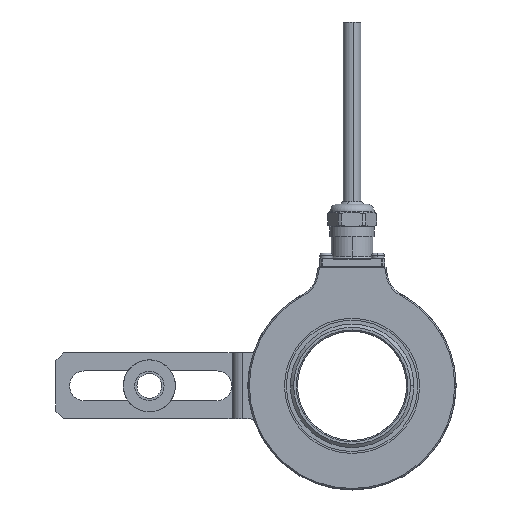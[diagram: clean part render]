
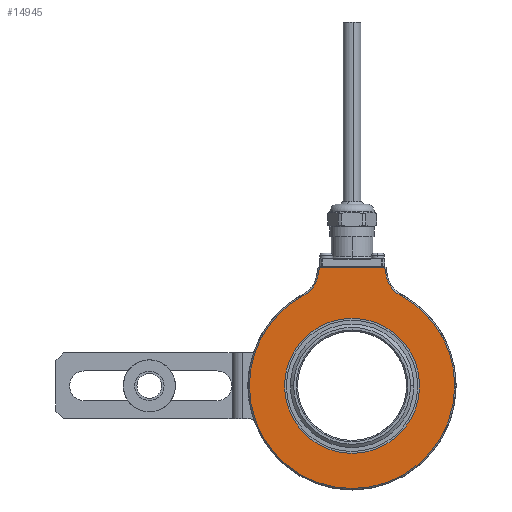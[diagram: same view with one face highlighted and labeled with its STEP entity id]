
A CAD part, left-side view. The second image highlights one B-rep face of the part: STEP entity #14945.
In plain terms, the highlighted planar face has unit normal (-1, 0, 0).
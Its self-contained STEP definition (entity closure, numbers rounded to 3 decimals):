
#236 = CARTESIAN_POINT ( 'NONE',  ( -26., 0., 0. ) ) ;
#365 = DIRECTION ( 'NONE',  ( -1., 0., 0. ) ) ;
#521 = VERTEX_POINT ( 'NONE', #24210 ) ;
#879 = DIRECTION ( 'NONE',  ( 1., 0., 0. ) ) ;
#998 = CIRCLE ( 'NONE', #8838, 39.5 ) ;
#1446 = AXIS2_PLACEMENT_3D ( 'NONE', #4204, #13880, #16110 ) ;
#1842 = EDGE_CURVE ( 'NONE', #15640, #25314, #23905, .T. ) ;
#2794 = ORIENTED_EDGE ( 'NONE', *, *, #4108, .T. ) ;
#2983 = CARTESIAN_POINT ( 'NONE',  ( -26., -18.551, 34.873 ) ) ;
#3736 = DIRECTION ( 'NONE',  ( 1., 0., 0. ) ) ;
#4019 = ORIENTED_EDGE ( 'NONE', *, *, #11534, .T. ) ;
#4049 = CARTESIAN_POINT ( 'NONE',  ( -26., -39.5, 0. ) ) ;
#4108 = EDGE_CURVE ( 'NONE', #16042, #17447, #5996, .T. ) ;
#4204 = CARTESIAN_POINT ( 'NONE',  ( -26., 23.482, 44.143 ) ) ;
#4354 = AXIS2_PLACEMENT_3D ( 'NONE', #18796, #21004, #4936 ) ;
#4511 = VERTEX_POINT ( 'NONE', #2983 ) ;
#4760 = CIRCLE ( 'NONE', #4354, 26. ) ;
#4936 = DIRECTION ( 'NONE',  ( 0., 1., 0. ) ) ;
#5493 = AXIS2_PLACEMENT_3D ( 'NONE', #236, #365, #6170 ) ;
#5552 = VERTEX_POINT ( 'NONE', #18730 ) ;
#5818 = CIRCLE ( 'NONE', #9113, 26. ) ;
#5826 = ORIENTED_EDGE ( 'NONE', *, *, #25370, .T. ) ;
#5996 = CIRCLE ( 'NONE', #1446, 10.5 ) ;
#6052 = CARTESIAN_POINT ( 'NONE',  ( -26., 40., 0. ) ) ;
#6170 = DIRECTION ( 'NONE',  ( 0., -1., 0. ) ) ;
#6368 = EDGE_CURVE ( 'NONE', #521, #16042, #10616, .T. ) ;
#6606 = DIRECTION ( 'NONE',  ( 0., -1., 0. ) ) ;
#6706 = CARTESIAN_POINT ( 'NONE',  ( -26., 0., 0. ) ) ;
#6767 = CIRCLE ( 'NONE', #5493, 39.5 ) ;
#7020 = VERTEX_POINT ( 'NONE', #24166 ) ;
#7981 = EDGE_LOOP ( 'NONE', ( #4019, #21900 ) ) ;
#8117 = AXIS2_PLACEMENT_3D ( 'NONE', #10471, #22551, #6606 ) ;
#8120 = DIRECTION ( 'NONE',  ( 0., -1., 0. ) ) ;
#8676 = DIRECTION ( 'NONE',  ( 0., 0.174, -0.985 ) ) ;
#8759 = DIRECTION ( 'NONE',  ( 0., -1., 0. ) ) ;
#8838 = AXIS2_PLACEMENT_3D ( 'NONE', #16672, #22395, #8759 ) ;
#8935 = AXIS2_PLACEMENT_3D ( 'NONE', #17339, #3736, #25264 ) ;
#9113 = AXIS2_PLACEMENT_3D ( 'NONE', #6706, #879, #9125 ) ;
#9125 = DIRECTION ( 'NONE',  ( 0., 1., 0. ) ) ;
#9803 = FACE_OUTER_BOUND ( 'NONE', #14610, .T. ) ;
#10113 = ORIENTED_EDGE ( 'NONE', *, *, #12196, .T. ) ;
#10471 = CARTESIAN_POINT ( 'NONE',  ( -26., 0., 0. ) ) ;
#10616 = LINE ( 'NONE', #10738, #21338 ) ;
#10644 = DIRECTION ( 'NONE',  ( 0., 0.174, 0.985 ) ) ;
#10738 = CARTESIAN_POINT ( 'NONE',  ( -26., 21.188, -3.317 ) ) ;
#11264 = VERTEX_POINT ( 'NONE', #11355 ) ;
#11355 = CARTESIAN_POINT ( 'NONE',  ( -26., -26., 0. ) ) ;
#11534 = EDGE_CURVE ( 'NONE', #5552, #11264, #4760, .T. ) ;
#11910 = ORIENTED_EDGE ( 'NONE', *, *, #14717, .T. ) ;
#12196 = EDGE_CURVE ( 'NONE', #7020, #14230, #6767, .T. ) ;
#12573 = CARTESIAN_POINT ( 'NONE',  ( -26., -18.776, 10.364 ) ) ;
#13880 = DIRECTION ( 'NONE',  ( 1., 0., 0. ) ) ;
#14183 = CARTESIAN_POINT ( 'NONE',  ( -26., -12.58, 45.5 ) ) ;
#14230 = VERTEX_POINT ( 'NONE', #4049 ) ;
#14610 = EDGE_LOOP ( 'NONE', ( #18777, #15897, #22746, #2794, #11910, #10113, #5826, #24704 ) ) ;
#14717 = EDGE_CURVE ( 'NONE', #17447, #7020, #15145, .T. ) ;
#14844 = EDGE_CURVE ( 'NONE', #4511, #15640, #18067, .T. ) ;
#14945 = ADVANCED_FACE ( 'NONE', ( #9803, #19912 ), #17725, .T. ) ;
#15145 = CIRCLE ( 'NONE', #8117, 39.5 ) ;
#15258 = CARTESIAN_POINT ( 'NONE',  ( -26., 40., 45.5 ) ) ;
#15640 = VERTEX_POINT ( 'NONE', #17080 ) ;
#15897 = ORIENTED_EDGE ( 'NONE', *, *, #17176, .T. ) ;
#16042 = VERTEX_POINT ( 'NONE', #21697 ) ;
#16110 = DIRECTION ( 'NONE',  ( 0., -1., 0. ) ) ;
#16672 = CARTESIAN_POINT ( 'NONE',  ( -26., 0., 0. ) ) ;
#16835 = LINE ( 'NONE', #15258, #18914 ) ;
#17080 = CARTESIAN_POINT ( 'NONE',  ( -26., -13.141, 42.32 ) ) ;
#17176 = EDGE_CURVE ( 'NONE', #25314, #521, #16835, .T. ) ;
#17339 = CARTESIAN_POINT ( 'NONE',  ( -26., -23.482, 44.143 ) ) ;
#17447 = VERTEX_POINT ( 'NONE', #21175 ) ;
#17725 = PLANE ( 'NONE',  #20974 ) ;
#17851 = DIRECTION ( 'NONE',  ( -1., 0., 0. ) ) ;
#18067 = CIRCLE ( 'NONE', #8935, 10.5 ) ;
#18730 = CARTESIAN_POINT ( 'NONE',  ( -26., 26., 0. ) ) ;
#18777 = ORIENTED_EDGE ( 'NONE', *, *, #1842, .T. ) ;
#18796 = CARTESIAN_POINT ( 'NONE',  ( -26., 0., 0. ) ) ;
#18903 = DIRECTION ( 'NONE',  ( 0., 1., 0. ) ) ;
#18914 = VECTOR ( 'NONE', #18903, 1000. ) ;
#19912 = FACE_BOUND ( 'NONE', #7981, .T. ) ;
#20974 = AXIS2_PLACEMENT_3D ( 'NONE', #6052, #17851, #8120 ) ;
#21004 = DIRECTION ( 'NONE',  ( 1., 0., 0. ) ) ;
#21175 = CARTESIAN_POINT ( 'NONE',  ( -26., 18.551, 34.873 ) ) ;
#21338 = VECTOR ( 'NONE', #8676, 1000. ) ;
#21585 = EDGE_CURVE ( 'NONE', #11264, #5552, #5818, .T. ) ;
#21697 = CARTESIAN_POINT ( 'NONE',  ( -26., 13.141, 42.32 ) ) ;
#21900 = ORIENTED_EDGE ( 'NONE', *, *, #21585, .T. ) ;
#21986 = VECTOR ( 'NONE', #10644, 1000. ) ;
#22395 = DIRECTION ( 'NONE',  ( -1., 0., 0. ) ) ;
#22551 = DIRECTION ( 'NONE',  ( -1., 0., 0. ) ) ;
#22746 = ORIENTED_EDGE ( 'NONE', *, *, #6368, .T. ) ;
#23905 = LINE ( 'NONE', #12573, #21986 ) ;
#24166 = CARTESIAN_POINT ( 'NONE',  ( -26., 39.5, 0. ) ) ;
#24210 = CARTESIAN_POINT ( 'NONE',  ( -26., 12.58, 45.5 ) ) ;
#24704 = ORIENTED_EDGE ( 'NONE', *, *, #14844, .T. ) ;
#25264 = DIRECTION ( 'NONE',  ( 0., -1., 0. ) ) ;
#25314 = VERTEX_POINT ( 'NONE', #14183 ) ;
#25370 = EDGE_CURVE ( 'NONE', #14230, #4511, #998, .T. ) ;
